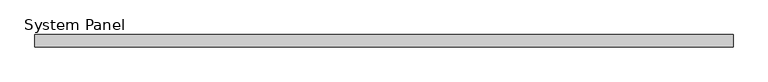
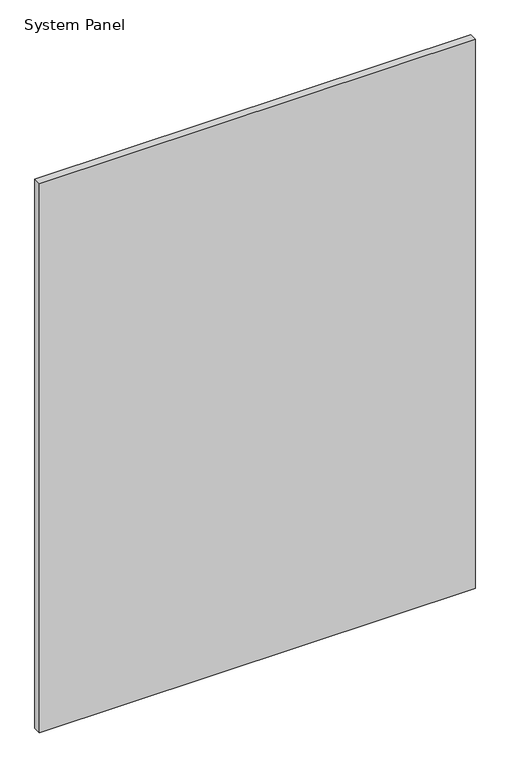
"""IFC4 building model written with IfcOpenShell, lengths in millimetres: plate geometry, System Panel : Panel_Glazed_Generic Showcase_30mm."""

from ifc_helpers import new_model, si_unit, origin, origin_with_axes, place, context, project, spatial, polyline, outline, extrude, source, transform, mapped, element, save


def system_panel_4ba8ea04(model_context):
    return source(origin(), model_context, "Body", "SweptSolid", [
        extrude(outline(polyline([(862.5, -30.0), (-862.5, -30.0), (-862.5, 0.0), (862.5, 0.0), (862.5, -30.0)])), origin_with_axes(), (0.0, 0.0, 1.0), 2300.0),
    ])


if __name__ == "__main__":
    model = new_model("IFC4")
    model_context = context("Model", 3, world=origin())
    ifc_project = project(units=[si_unit("LENGTHUNIT", "METRE", prefix="MILLI")], contexts=[model_context])
    site = spatial("IfcSite", under=ifc_project)
    building = spatial("IfcBuilding", under=site)
    placement = place(None, origin())
    system_panel_shape = system_panel_4ba8ea04(model_context)
    element("IfcPlate", 1, ObjectType="System Panel : Panel_Glazed_Generic Showcase_30mm", at=placement, inside=building, context=model_context, shape_type="MappedRepresentation", body=[
        mapped(system_panel_shape, transform((0.0, 0.0, 0.0), x_axis=(1.0, 0.0, 0.0), y_axis=(0.0, 1.0, 0.0), z_axis=(0.0, 0.0, 1.0))),
    ])
    save(model, "model.ifc")
